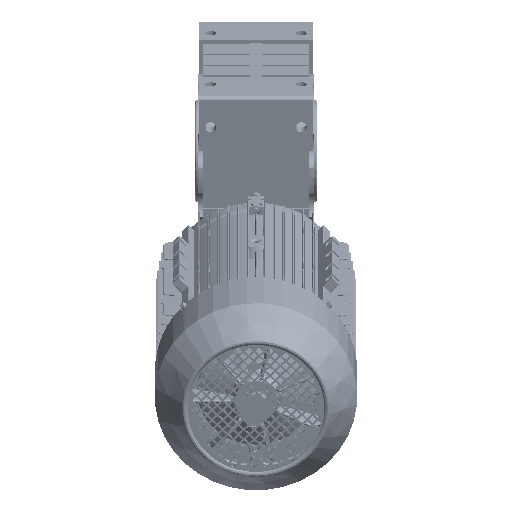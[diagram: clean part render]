
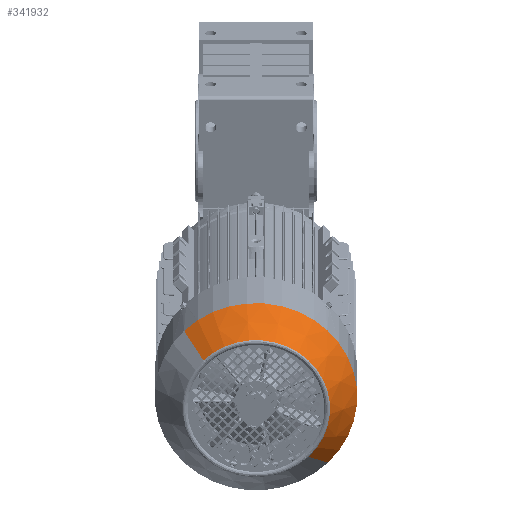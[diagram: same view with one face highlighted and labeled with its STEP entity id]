
A CAD part, front view. The second image highlights one B-rep face of the part: STEP entity #341932.
In plain terms, the highlighted conical face has half-angle 41.071 degrees and reference radius 128.55 mm.
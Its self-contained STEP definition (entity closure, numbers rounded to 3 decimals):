
#6088 = AXIS2_PLACEMENT_3D ( 'NONE', #63000, #29424, #86084 ) ;
#29424 = DIRECTION ( 'NONE',  ( -1., 0., 0. ) ) ;
#33666 = AXIS2_PLACEMENT_3D ( 'NONE', #336568, #283304, #38565 ) ;
#36083 = VECTOR ( 'NONE', #241939, 1000. ) ;
#38565 = DIRECTION ( 'NONE',  ( 0., 0., 1. ) ) ;
#42701 = CARTESIAN_POINT ( 'NONE',  ( 126.628, 0., 0. ) ) ;
#58620 = LINE ( 'NONE', #274994, #275311 ) ;
#58855 = VERTEX_POINT ( 'NONE', #213846 ) ;
#63000 = CARTESIAN_POINT ( 'NONE',  ( 87., 0., 0. ) ) ;
#67738 = ORIENTED_EDGE ( 'NONE', *, *, #158540, .T. ) ;
#73185 = CIRCLE ( 'NONE', #33666, 128.55 ) ;
#76340 = DIRECTION ( 'NONE',  ( 0., 0., 1. ) ) ;
#86084 = DIRECTION ( 'NONE',  ( 0., 0., 1. ) ) ;
#89451 = VERTEX_POINT ( 'NONE', #97076 ) ;
#97076 = CARTESIAN_POINT ( 'NONE',  ( 87., 0., 128.55 ) ) ;
#115258 = DIRECTION ( 'NONE',  ( -0.754, 0., -0.657 ) ) ;
#158540 = EDGE_CURVE ( 'NONE', #212852, #58855, #173420, .T. ) ;
#165987 = EDGE_CURVE ( 'NONE', #169214, #89451, #73185, .T. ) ;
#169214 = VERTEX_POINT ( 'NONE', #332902 ) ;
#173420 = CIRCLE ( 'NONE', #241608, 94.016 ) ;
#190448 = LINE ( 'NONE', #217096, #36083 ) ;
#212852 = VERTEX_POINT ( 'NONE', #244273 ) ;
#213846 = CARTESIAN_POINT ( 'NONE',  ( 126.628, 0., 94.016 ) ) ;
#217096 = CARTESIAN_POINT ( 'NONE',  ( 87., 0., 128.55 ) ) ;
#235443 = EDGE_CURVE ( 'NONE', #58855, #89451, #190448, .T. ) ;
#241608 = AXIS2_PLACEMENT_3D ( 'NONE', #42701, #264309, #76340 ) ;
#241939 = DIRECTION ( 'NONE',  ( -0.754, 0., 0.657 ) ) ;
#244273 = CARTESIAN_POINT ( 'NONE',  ( 126.628, 0., -94.016 ) ) ;
#246400 = EDGE_LOOP ( 'NONE', ( #340787, #67738, #281738, #311486 ) ) ;
#255326 = CONICAL_SURFACE ( 'NONE', #6088, 128.55, 0.717 ) ;
#264309 = DIRECTION ( 'NONE',  ( -1., 0., 0. ) ) ;
#266652 = EDGE_CURVE ( 'NONE', #212852, #169214, #58620, .T. ) ;
#272397 = FACE_OUTER_BOUND ( 'NONE', #246400, .T. ) ;
#274994 = CARTESIAN_POINT ( 'NONE',  ( 87., 0., -128.55 ) ) ;
#275311 = VECTOR ( 'NONE', #115258, 1000. ) ;
#281738 = ORIENTED_EDGE ( 'NONE', *, *, #235443, .T. ) ;
#283304 = DIRECTION ( 'NONE',  ( -1., 0., 0. ) ) ;
#311486 = ORIENTED_EDGE ( 'NONE', *, *, #165987, .F. ) ;
#332902 = CARTESIAN_POINT ( 'NONE',  ( 87., 0., -128.55 ) ) ;
#336568 = CARTESIAN_POINT ( 'NONE',  ( 87., 0., 0. ) ) ;
#340787 = ORIENTED_EDGE ( 'NONE', *, *, #266652, .F. ) ;
#341932 = ADVANCED_FACE ( 'NONE', ( #272397 ), #255326, .T. ) ;
